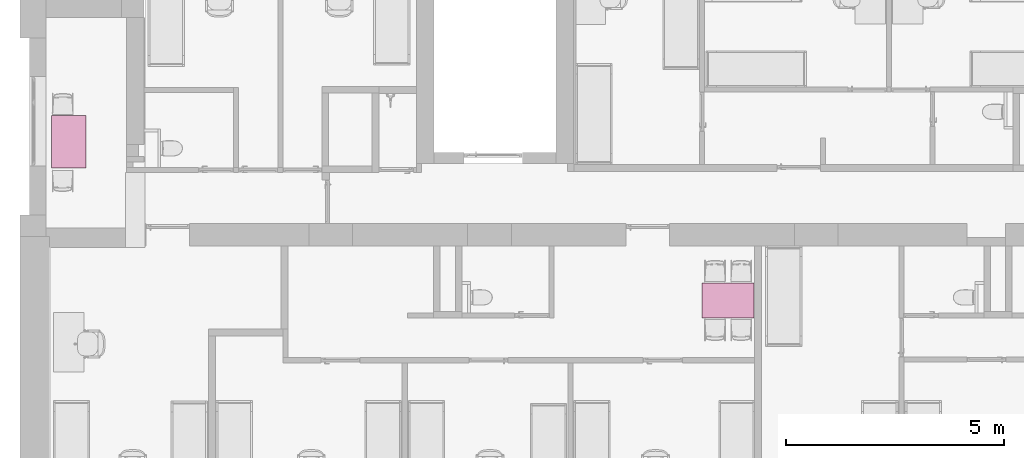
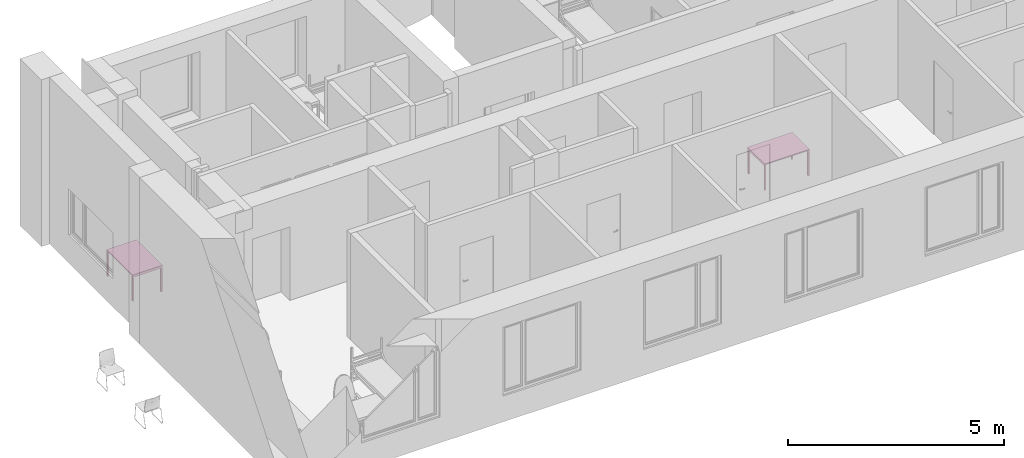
# One storey, part 23 of 46: 2 furnishings.
"""IFC2X3 building model written with IfcOpenShell, lengths in millimetres."""

from ifc_helpers import new_model, entity, si_unit, converted_unit, derived_unit, direction, frame, frame_2d, origin, origin_2d_with_axis, place, context, subcontext, project, spatial, polyline, rectangle, circle, outline, extrude, source, transform, mapped, material, material_list, type_object, type_shapes, element, save


model = new_model("IFC2X3")

# Units and contexts
model_context = context("Model", 3, precision=0.01, world=origin(), true_north=direction((6.12303176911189e-17, 1.0)))
body_context = subcontext(model_context, "Body", "Model", "MODEL_VIEW")
ifc_project = project(units=[si_unit("LENGTHUNIT", "METRE", prefix="MILLI"), si_unit("AREAUNIT", "SQUARE_METRE"), si_unit("VOLUMEUNIT", "CUBIC_METRE"), converted_unit("PLANEANGLEUNIT", "DEGREE", entity("IfcRatioMeasure", 0.0174532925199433), si_unit("PLANEANGLEUNIT", "RADIAN"), dimensions=[0, 0, 0, 0, 0, 0, 0]), si_unit("MASSUNIT", "GRAM", prefix="KILO"), derived_unit("MASSDENSITYUNIT", [(si_unit("MASSUNIT", "GRAM", prefix="KILO"), 1), (si_unit("LENGTHUNIT", "METRE"), -3)]), si_unit("TIMEUNIT", "SECOND"), si_unit("FREQUENCYUNIT", "HERTZ"), si_unit("THERMODYNAMICTEMPERATUREUNIT", "DEGREE_CELSIUS"), derived_unit("THERMALTRANSMITTANCEUNIT", [(si_unit("MASSUNIT", "GRAM", prefix="KILO"), 1), (si_unit("THERMODYNAMICTEMPERATUREUNIT", "KELVIN"), -1), (si_unit("TIMEUNIT", "SECOND"), -3)]), derived_unit("VOLUMETRICFLOWRATEUNIT", [(si_unit("LENGTHUNIT", "METRE"), 3), (si_unit("TIMEUNIT", "SECOND"), -1)]), si_unit("ELECTRICCURRENTUNIT", "AMPERE"), si_unit("ELECTRICVOLTAGEUNIT", "VOLT"), si_unit("POWERUNIT", "WATT"), si_unit("FORCEUNIT", "NEWTON", prefix="KILO"), si_unit("ILLUMINANCEUNIT", "LUX"), si_unit("LUMINOUSFLUXUNIT", "LUMEN"), si_unit("LUMINOUSINTENSITYUNIT", "CANDELA"), derived_unit("USERDEFINED", [(si_unit("MASSUNIT", "GRAM", prefix="KILO"), -1), (si_unit("LENGTHUNIT", "METRE"), -2), (si_unit("TIMEUNIT", "SECOND"), 3), (si_unit("LUMINOUSFLUXUNIT", "LUMEN"), 1)]), derived_unit("LINEARVELOCITYUNIT", [(si_unit("LENGTHUNIT", "METRE"), 1), (si_unit("TIMEUNIT", "SECOND"), -1)]), si_unit("PRESSUREUNIT", "PASCAL"), derived_unit("USERDEFINED", [(si_unit("LENGTHUNIT", "METRE"), -2), (si_unit("MASSUNIT", "GRAM", prefix="KILO"), 1), (si_unit("TIMEUNIT", "SECOND"), -2)]), derived_unit("LINEARFORCEUNIT", [(si_unit("MASSUNIT", "GRAM", prefix="KILO"), 1), (si_unit("LENGTHUNIT", "METRE"), 1), (si_unit("TIMEUNIT", "SECOND"), -2), (si_unit("LENGTHUNIT", "METRE"), -1)]), derived_unit("PLANARFORCEUNIT", [(si_unit("MASSUNIT", "GRAM", prefix="KILO"), 1), (si_unit("LENGTHUNIT", "METRE"), 1), (si_unit("TIMEUNIT", "SECOND"), -2), (si_unit("LENGTHUNIT", "METRE"), -2)])], contexts=[model_context])

# Site, building, storey, space
site_placement = place(None, origin())
site = spatial("IfcSite", under=ifc_project, at=site_placement, Name="Default", CompositionType="ELEMENT")
building_placement = place(site_placement, origin())
building = spatial("IfcBuilding", under=site, at=building_placement, Name="SMA ARH", CompositionType="ELEMENT")
storey_placement = place(building_placement, frame((0.0, 0.0, 9910.0)))
storey = spatial("IfcBuildingStorey", under=building, at=storey_placement, Name="4 Korrus", CompositionType="ELEMENT", Elevation=9909.9999999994)
space_1_placement = place(storey_placement, origin())
space_1 = spatial("IfcSpace", under=storey, at=space_1_placement, Name="4-16", CompositionType="ELEMENT", InteriorOrExteriorSpace="INTERNAL")

# Furnishing
ifc_material_1 = material(Name="Metal - Stud Layer")
ifc_material_2 = material(Name="<Unnamed>")
ifc_material_list = material_list([ifc_material_1, ifc_material_2])
furniture_type = type_object("IfcFurnitureType", Name="laud_1200x800:laud_1200x800", material=ifc_material_list)
shared_shape = source(origin(), body_context, "Body", "SweptSolid", [
    extrude(rectangle(XDim=800.0, YDim=1200.0, at=origin_2d_with_axis()), frame((-150.0, 550.0, 720.0), z_axis=(0.0, 0.0, 1.0), x_axis=(-1.0, 0.0, 0.0)), (0.0, 0.0, 1.0), 29.9999999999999),
    extrude(outline(polyline([(-400.0, -365.0), (400.0, -365.0), (400.0, 345.0), (360.0, 345.0), (360.0, -325.0), (-360.0, -325.0), (-360.0, 345.0), (-400.0, 345.0), (-400.0, -365.0)])), frame((-150.0, -50.0, 355.0), z_axis=(0.0, 1.0, 0.0), x_axis=(1.0, 0.0, 0.0)), (0.0, 0.0, 1.0), 40.0000000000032),
    extrude(outline(polyline([(-400.0, -365.0), (400.0, -365.0), (400.0, 345.0), (360.0, 345.0), (360.0, -325.0), (-360.0, -325.0), (-360.0, 345.0), (-400.0, 345.0), (-400.0, -365.0)])), frame((-150.0, 1110.0, 355.0), z_axis=(0.0, 1.0, 0.0), x_axis=(1.0, 0.0, 0.0)), (0.0, 0.0, 1.0), 40.0000000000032),
    extrude(circle(Radius=15.0, at=frame_2d((0.0, 5.07593966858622e-14), x_axis=(1.0, 0.0))), frame((-529.847171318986, -29.9550233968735, 0.0)), (0.0, 0.0, 1.0), 10.0),
    extrude(circle(Radius=15.0, at=origin_2d_with_axis()), frame((-529.847171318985, 1129.95502339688, 0.0)), (0.0, 0.0, 1.0), 10.0),
    extrude(circle(Radius=15.0, at=origin_2d_with_axis()), frame((230.152828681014, -29.9550233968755, 0.0)), (0.0, 0.0, 1.0), 10.0),
    extrude(circle(Radius=15.0, at=origin_2d_with_axis()), frame((230.152828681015, 1129.95502339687, 0.0)), (0.0, 0.0, 1.0), 10.0),
])
type_shapes(furniture_type, [shared_shape])
furnishing_1_placement = place(space_1_placement, frame((16101.2909917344, 4910.0, 0.0), z_axis=(0.0, 0.0, 1.0), x_axis=(0.0, 1.0, 0.0)))
element("IfcFurnishingElement", 1, at=furnishing_1_placement, inside=space_1, type_object=furniture_type, material=ifc_material_1, Name="laud_1200x800:laud_1200x800", ObjectType="laud_1200x800:laud_1200x800", context=body_context, shape_type="MappedRepresentation", body=[
    mapped(shared_shape, transform((0.0, 0.0, 0.0), scale=1.0)),
])

# Space
space_2_placement = place(storey_placement, origin())
space_2 = spatial("IfcSpace", under=storey, at=space_2_placement, Name="4-18", CompositionType="ELEMENT", InteriorOrExteriorSpace="INTERNAL")

# Furnishing
furnishing_2_placement = place(space_2_placement, frame((570.0, 7849.0, 0.0)))
element("IfcFurnishingElement", 2, at=furnishing_2_placement, inside=space_2, type_object=furniture_type, material=ifc_material_1, Name="laud_1200x800:laud_1200x800", ObjectType="laud_1200x800:laud_1200x800", context=body_context, shape_type="MappedRepresentation", body=[
    mapped(shared_shape, transform((0.0, 0.0, 0.0), scale=1.0)),
])

save(model, "model.ifc")
